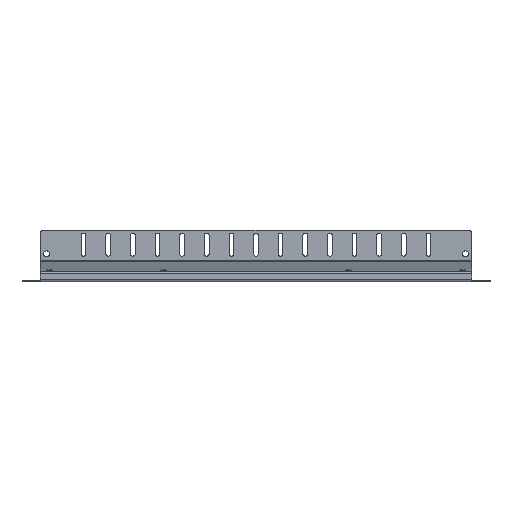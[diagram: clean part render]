
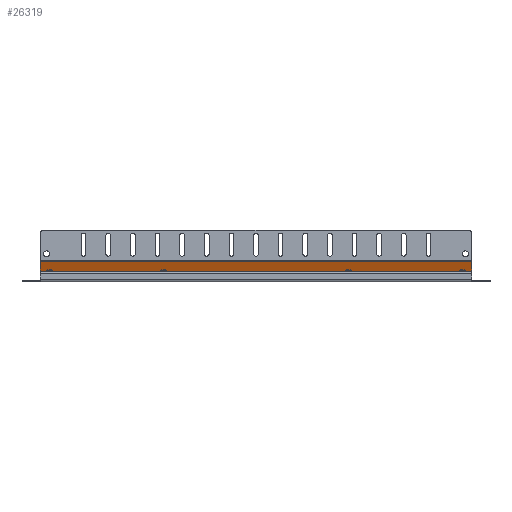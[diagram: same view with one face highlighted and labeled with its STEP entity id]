
A CAD part, top view. The second image highlights one B-rep face of the part: STEP entity #26319.
In plain terms, the highlighted planar face has unit normal (0, -0.375, 0.927) as drawn and (0, -0.927, 0.375) by its records, which use the part's own axes.
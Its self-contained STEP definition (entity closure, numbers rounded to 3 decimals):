
#207=LINE('',#44449,#495);
#209=LINE('',#44456,#497);
#212=LINE('',#44468,#500);
#213=LINE('',#44469,#501);
#495=VECTOR('',#34154,1000.);
#497=VECTOR('',#34162,1000.);
#500=VECTOR('',#34173,1000.);
#501=VECTOR('',#34174,1000.);
#678=PLANE('',#28902);
#3593=ORIENTED_EDGE('',*,*,#8889,.F.);
#3594=ORIENTED_EDGE('',*,*,#8895,.T.);
#3595=ORIENTED_EDGE('',*,*,#8885,.F.);
#3596=ORIENTED_EDGE('',*,*,#8896,.F.);
#8885=EDGE_CURVE('',#18910,#18911,#207,.T.);
#8889=EDGE_CURVE('',#18912,#18913,#209,.T.);
#8895=EDGE_CURVE('',#18912,#18911,#212,.T.);
#8896=EDGE_CURVE('',#18913,#18910,#213,.T.);
#13981=EDGE_LOOP('',(#3593,#3594,#3595,#3596));
#18910=VERTEX_POINT('',#44448);
#18911=VERTEX_POINT('',#44450);
#18912=VERTEX_POINT('',#44455);
#18913=VERTEX_POINT('',#44457);
#21480=FACE_BOUND('',#13981,.T.);
#26319=ADVANCED_FACE('',(#21480),#678,.F.);
#28902=AXIS2_PLACEMENT_3D('',#44467,#34171,#34172);
#34154=DIRECTION('',(0.,-0.375,-0.927));
#34162=DIRECTION('',(0.,0.375,0.927));
#34171=DIRECTION('',(0.,0.927,-0.375));
#34172=DIRECTION('',(0.,0.375,0.927));
#34173=DIRECTION('',(1.,0.,0.));
#34174=DIRECTION('',(1.,0.,0.));
#44448=CARTESIAN_POINT('',(222.25,42.073,-2.46));
#44449=CARTESIAN_POINT('',(222.25,42.541,-1.302));
#44450=CARTESIAN_POINT('',(222.25,34.667,-20.791));
#44455=CARTESIAN_POINT('',(-222.25,34.667,-20.791));
#44456=CARTESIAN_POINT('',(-222.25,42.541,-1.302));
#44457=CARTESIAN_POINT('',(-222.25,42.073,-2.46));
#44467=CARTESIAN_POINT('',(0.,37.023,-14.958));
#44468=CARTESIAN_POINT('',(-222.25,34.667,-20.791));
#44469=CARTESIAN_POINT('',(-222.25,42.073,-2.46));
